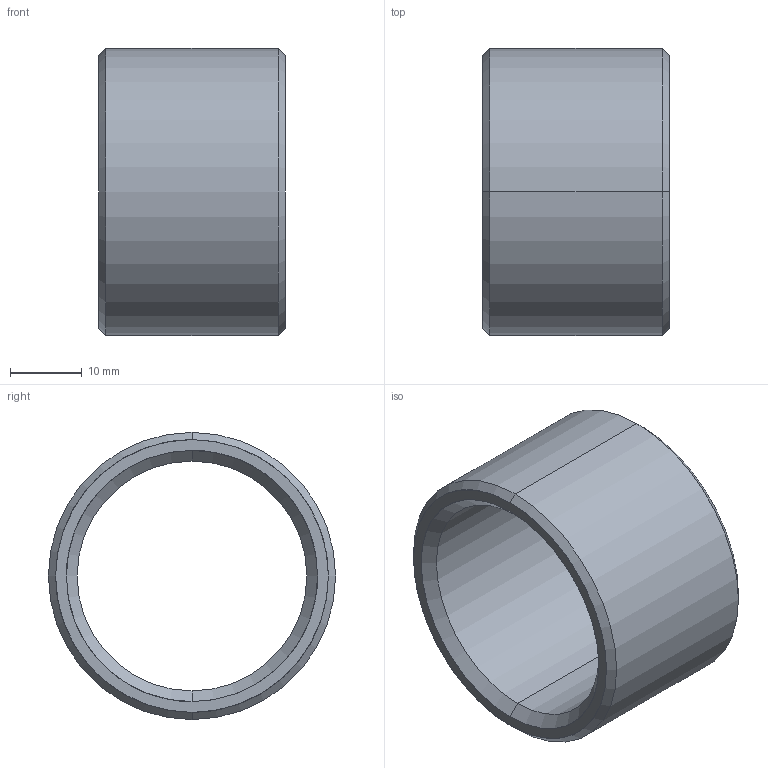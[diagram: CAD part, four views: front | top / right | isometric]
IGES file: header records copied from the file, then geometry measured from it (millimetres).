
Start section: START RECORD GO HERE.
Global section: file name: 352-32X26.igs; native system: DASSAULT SYSTEMES CATIA V5 R20 - www.3ds.com; preprocessor: CATIA Version 5 Release 20 ; author: Utente; organization: NB04-ASUS; date: 20210414.170355; units: millimetre
Bounding box: 26 x 40 x 40 mm (x, y, z)
Surface area: 6507.9 mm2 (no closed solid volume)
Topology: 0 solids, 0 shells, 14 faces, 88 edges, 88 vertices
Faces by surface type: revolution 12, plane 2
